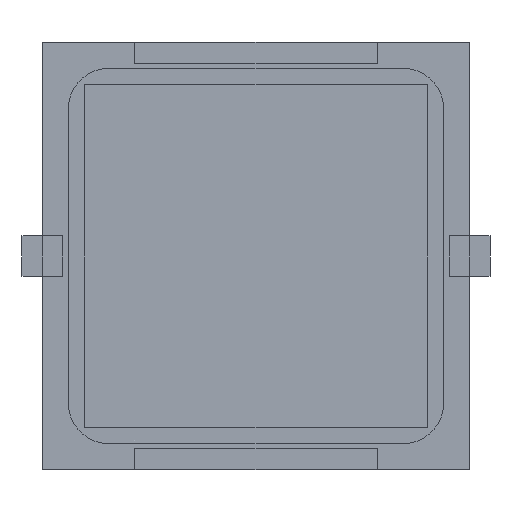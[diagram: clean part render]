
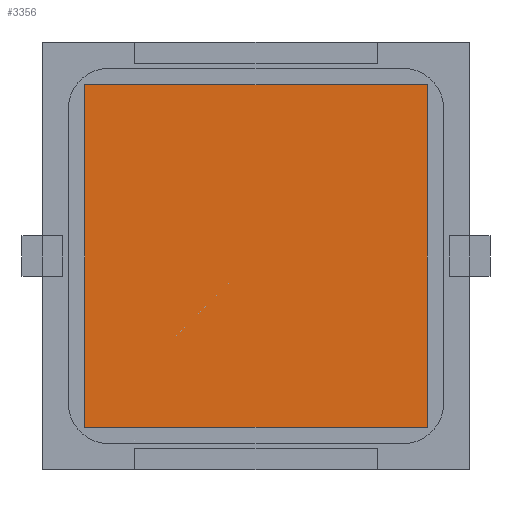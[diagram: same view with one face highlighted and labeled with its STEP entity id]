
A CAD part, front view. The second image highlights one B-rep face of the part: STEP entity #3356.
In plain terms, the highlighted planar face has unit normal (0, -1, 0).
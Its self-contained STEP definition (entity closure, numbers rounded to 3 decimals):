
#174 = VECTOR ( 'NONE', #413, 1000. ) ;
#212 = EDGE_CURVE ( 'NONE', #1935, #948, #3292, .T. ) ;
#329 = CARTESIAN_POINT ( 'NONE',  ( -8.5, -0.127, -8.5 ) ) ;
#413 = DIRECTION ( 'NONE',  ( -1., 0., 0. ) ) ;
#430 = LINE ( 'NONE', #4524, #3432 ) ;
#586 = CARTESIAN_POINT ( 'NONE',  ( -8.5, -0.127, 8.5 ) ) ;
#840 = DIRECTION ( 'NONE',  ( 0., 1., 0. ) ) ;
#948 = VERTEX_POINT ( 'NONE', #4805 ) ;
#1189 = EDGE_CURVE ( 'NONE', #948, #3210, #3565, .T. ) ;
#1399 = CARTESIAN_POINT ( 'NONE',  ( -8.5, -0.127, 8.5 ) ) ;
#1696 = AXIS2_PLACEMENT_3D ( 'NONE', #1399, #840, #4966 ) ;
#1935 = VERTEX_POINT ( 'NONE', #4028 ) ;
#1940 = DIRECTION ( 'NONE',  ( 0., 0., -1. ) ) ;
#2109 = ORIENTED_EDGE ( 'NONE', *, *, #212, .F. ) ;
#2271 = ORIENTED_EDGE ( 'NONE', *, *, #1189, .F. ) ;
#3203 = DIRECTION ( 'NONE',  ( 1., 0., 0. ) ) ;
#3210 = VERTEX_POINT ( 'NONE', #329 ) ;
#3292 = LINE ( 'NONE', #4220, #3998 ) ;
#3356 = ADVANCED_FACE ( 'NONE', ( #5235 ), #5694, .F. ) ;
#3370 = ORIENTED_EDGE ( 'NONE', *, *, #4475, .F. ) ;
#3432 = VECTOR ( 'NONE', #5481, 1000. ) ;
#3491 = VECTOR ( 'NONE', #3203, 1000. ) ;
#3565 = LINE ( 'NONE', #4511, #174 ) ;
#3960 = ORIENTED_EDGE ( 'NONE', *, *, #5265, .F. ) ;
#3998 = VECTOR ( 'NONE', #1940, 1000. ) ;
#4028 = CARTESIAN_POINT ( 'NONE',  ( 8.5, -0.127, 8.5 ) ) ;
#4084 = LINE ( 'NONE', #5485, #3491 ) ;
#4220 = CARTESIAN_POINT ( 'NONE',  ( 8.5, -0.127, -8.5 ) ) ;
#4475 = EDGE_CURVE ( 'NONE', #5441, #1935, #4084, .T. ) ;
#4511 = CARTESIAN_POINT ( 'NONE',  ( -8.5, -0.127, -8.5 ) ) ;
#4524 = CARTESIAN_POINT ( 'NONE',  ( -8.5, -0.127, -8.5 ) ) ;
#4805 = CARTESIAN_POINT ( 'NONE',  ( 8.5, -0.127, -8.5 ) ) ;
#4966 = DIRECTION ( 'NONE',  ( 0., 0., 1. ) ) ;
#5235 = FACE_OUTER_BOUND ( 'NONE', #5327, .T. ) ;
#5265 = EDGE_CURVE ( 'NONE', #3210, #5441, #430, .T. ) ;
#5327 = EDGE_LOOP ( 'NONE', ( #3960, #2271, #2109, #3370 ) ) ;
#5441 = VERTEX_POINT ( 'NONE', #586 ) ;
#5481 = DIRECTION ( 'NONE',  ( 0., 0., 1. ) ) ;
#5485 = CARTESIAN_POINT ( 'NONE',  ( -8.5, -0.127, 8.5 ) ) ;
#5694 = PLANE ( 'NONE',  #1696 ) ;
